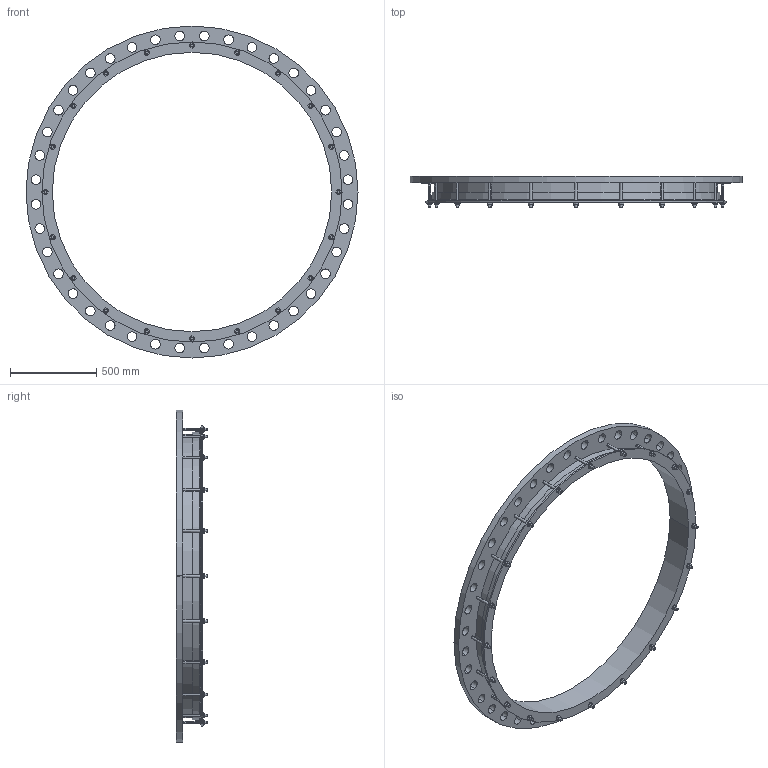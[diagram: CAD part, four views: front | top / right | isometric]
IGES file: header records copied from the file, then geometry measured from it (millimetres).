
Start section:  PTC IGES file: 1620x1600pn16.igs
Global section: file name: 1620x1600pn16.igs; native system: Creo Parametric by PTC Inc.; preprocessor: 2016130; author: mfairey; organization: Unknown; date: 20190117.143947; units: millimetre
Bounding box: 1930 x 182 x 1930 mm (x, y, z)
Surface area: 4010710.1 mm2 (no closed solid volume)
Topology: 0 solids, 0 shells, 398 faces, 2116 edges, 2116 vertices
Faces by surface type: revolution 214, bspline 184
